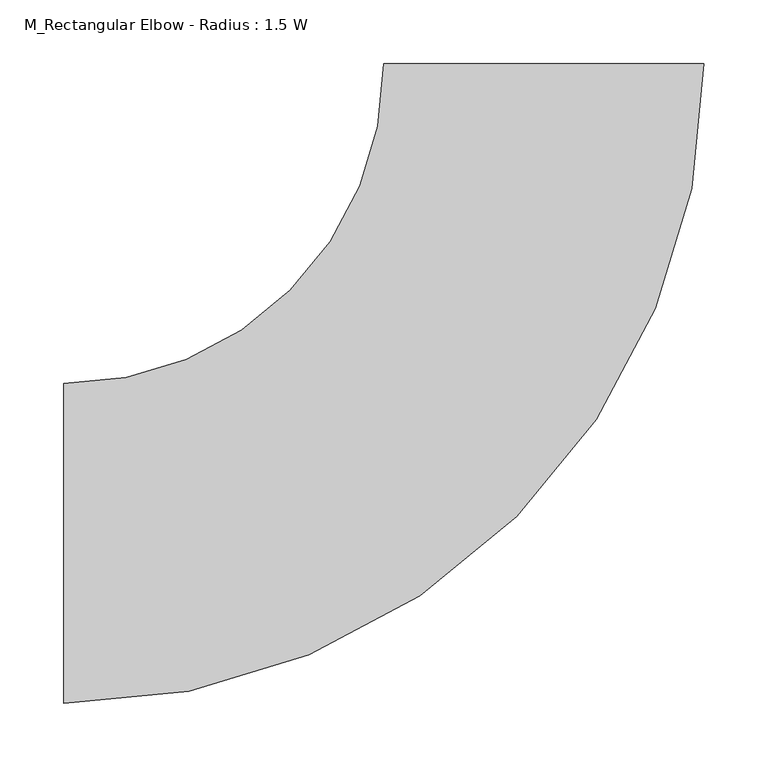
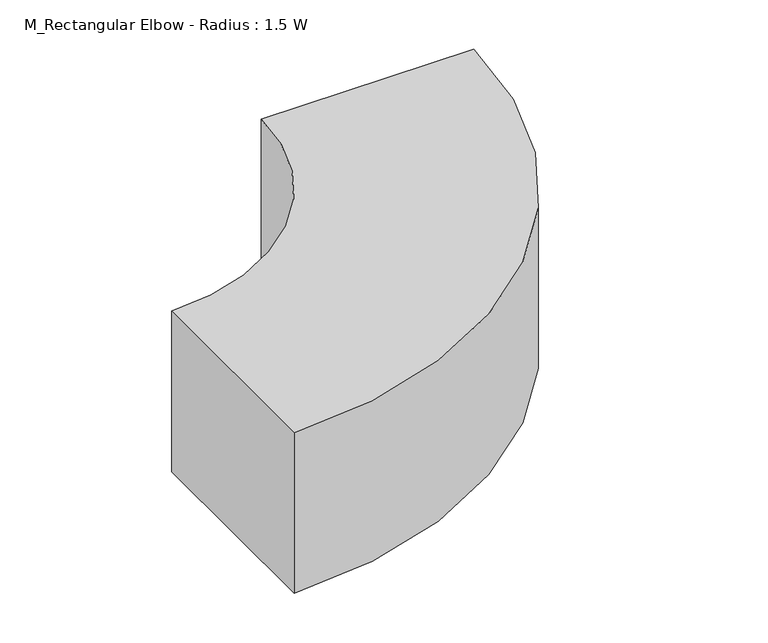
"""IFC4 building model written with IfcOpenShell, lengths in millimetres: duct fitting geometry, M_Rectangular Elbow - Radius : 1.5 W."""

from ifc_helpers import new_model, si_unit, point, frame, frame_2d, origin, place, context, project, spatial, polyline, circle_curve, trimmed, segment, composite_curve, outline, extrude, source, transform, mapped, element, save


def m_rectangular_elbow_radius_1_5_w_8951400e(model_context):
    return source(origin(), model_context, "Body", "SweptSolid", [
        extrude(outline(composite_curve([segment(trimmed(circle_curve(frame_2d((-375.0, 375.0)), 500.0), [point((125.0, 375.0))], [point((-375.0, -125.0))], False, "CARTESIAN"), True, "CONTINUOUS"), segment(polyline([(-375.0, -125.0), (-375.0, 125.0)]), True, "CONTINUOUS"), segment(trimmed(circle_curve(frame_2d((-375.0, 375.0)), 250.0), [point((-375.0, 125.0))], [point((-125.0, 375.0))], True, "CARTESIAN"), True, "CONTINUOUS"), segment(polyline([(-125.0, 375.0), (125.0, 375.0)]), True, "CONTINUOUS")], self_intersect=False)), frame((0.0, 0.0, -100.0), z_axis=(0.0, 0.0, 1.0), x_axis=(1.0, 0.0, 0.0)), (0.0, 0.0, 1.0), 200.0),
        extrude(outline(composite_curve([segment(trimmed(circle_curve(frame_2d((-375.0, 375.0)), 500.0), [point((125.0, 375.0))], [point((-375.0, -125.0))], False, "CARTESIAN"), True, "CONTINUOUS"), segment(polyline([(-375.0, -125.0), (-375.0, 125.0)]), True, "CONTINUOUS"), segment(trimmed(circle_curve(frame_2d((-375.0, 375.0)), 250.0), [point((-375.0, 125.0))], [point((-125.0, 375.0))], True, "CARTESIAN"), True, "CONTINUOUS"), segment(polyline([(-125.0, 375.0), (125.0, 375.0)]), True, "CONTINUOUS")], self_intersect=False)), frame((0.0, 0.0, -100.0), z_axis=(0.0, 0.0, 1.0), x_axis=(1.0, 0.0, 0.0)), (0.0, 0.0, 1.0), 200.0),
        extrude(outline(composite_curve([segment(trimmed(circle_curve(frame_2d((-375.0, 375.0)), 500.0), [point((125.0, 375.0))], [point((-375.0, -125.0))], False, "CARTESIAN"), True, "CONTINUOUS"), segment(polyline([(-375.0, -125.0), (-375.0, 125.0)]), True, "CONTINUOUS"), segment(trimmed(circle_curve(frame_2d((-375.0, 375.0)), 250.0), [point((-375.0, 125.0))], [point((-125.0, 375.0))], True, "CARTESIAN"), True, "CONTINUOUS"), segment(polyline([(-125.0, 375.0), (125.0, 375.0)]), True, "CONTINUOUS")], self_intersect=False)), frame((0.0, 0.0, -100.0), z_axis=(0.0, 0.0, 1.0), x_axis=(1.0, 0.0, 0.0)), (0.0, 0.0, 1.0), 200.0),
    ])


if __name__ == "__main__":
    model = new_model("IFC4")
    model_context = context("Model", 3, world=origin())
    ifc_project = project(units=[si_unit("LENGTHUNIT", "METRE", prefix="MILLI")], contexts=[model_context])
    site = spatial("IfcSite", under=ifc_project)
    building = spatial("IfcBuilding", under=site)
    placement = place(None, origin())
    m_rectangular_elbow_radius_1_5_w_shape = m_rectangular_elbow_radius_1_5_w_8951400e(model_context)
    element("IfcDuctFitting", 1, ObjectType="M_Rectangular Elbow - Radius : 1.5 W", at=placement, inside=building, context=model_context, shape_type="MappedRepresentation", body=[
        mapped(m_rectangular_elbow_radius_1_5_w_shape, transform((0.0, 0.0, 0.0), x_axis=(1.0, 0.0, 0.0), y_axis=(0.0, 1.0, 0.0), z_axis=(0.0, 0.0, 1.0))),
    ])
    save(model, "model.ifc")
